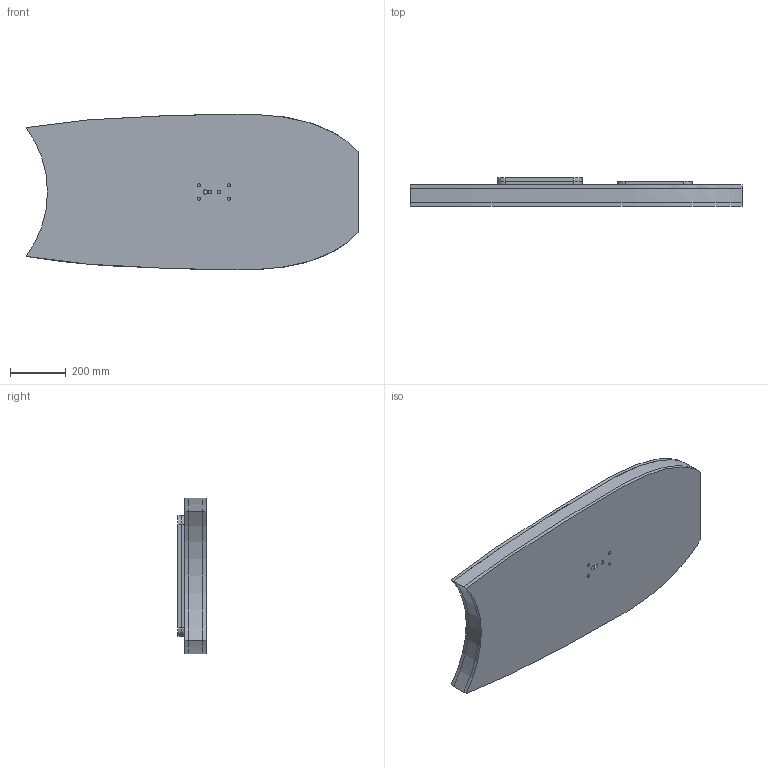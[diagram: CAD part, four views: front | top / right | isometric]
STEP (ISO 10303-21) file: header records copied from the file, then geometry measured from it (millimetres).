
FILE_DESCRIPTION (( 'STEP AP203' ), '1' );
FILE_NAME ('Boogie.STEP', '2025-01-29T23:25:35', ( '' ), ( '' ), 'SwSTEP 2.0', 'SolidWorks 2023', '' );
FILE_SCHEMA (( 'CONFIG_CONTROL_DESIGN' ));
Length unit declared in the file: inch
Products named in the file (1): Boogie
Bounding box: 1190.2 x 101.6 x 558.42 mm (x, y, z)
Volume: 38320238.3 mm3; surface area: 4058218.3 mm2
Topology: 6 solids, 6 shells, 136 faces, 372 edges, 248 vertices
Faces by surface type: plane 93, cylinder 37, bspline 6
Entity records: 5646 total; most frequent: CARTESIAN_POINT 2000, ORIENTED_EDGE 744, DIRECTION 698, EDGE_CURVE 372, VECTOR 284, LINE 284, VERTEX_POINT 248, AXIS2_PLACEMENT_3D 207
